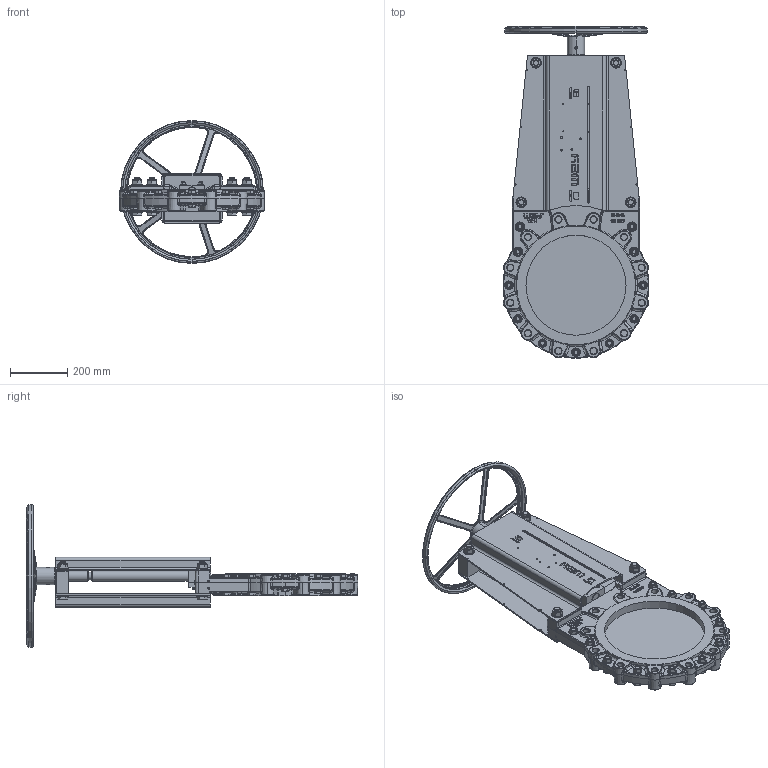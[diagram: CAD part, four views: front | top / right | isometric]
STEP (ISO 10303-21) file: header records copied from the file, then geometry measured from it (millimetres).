
FILE_DESCRIPTION (( 'STEP AP203' ), '1' );
FILE_NAME ('VMA DN 350 DH500.step', '2013-09-30T09:16:06', ( 'admin' ), ( '' ), 'SwSTEP 2.0', 'SolidWorks 2013', '' );
FILE_SCHEMA (( 'CONFIG_CONTROL_DESIGN' ));
Length unit declared in the file: millimetre
Products named in the file (1): VMA DN 350 DH500
Bounding box: 510 x 1161.35 x 500 mm (x, y, z)
Volume: 15934685.9 mm3; surface area: 2426050.5 mm2
Topology: 70 solids, 71 shells, 3660 faces, 8794 edges, 5281 vertices
Faces by surface type: plane 1300, cylinder 888, bspline 685, cone 559, torus 228
Entity records: 142761 total; most frequent: CARTESIAN_POINT 62926, ORIENTED_EDGE 17336, DIRECTION 15345, EDGE_CURVE 8668, AXIS2_PLACEMENT_3D 5871, VERTEX_POINT 5281, EDGE_LOOP 4043, ADVANCED_FACE 3660
